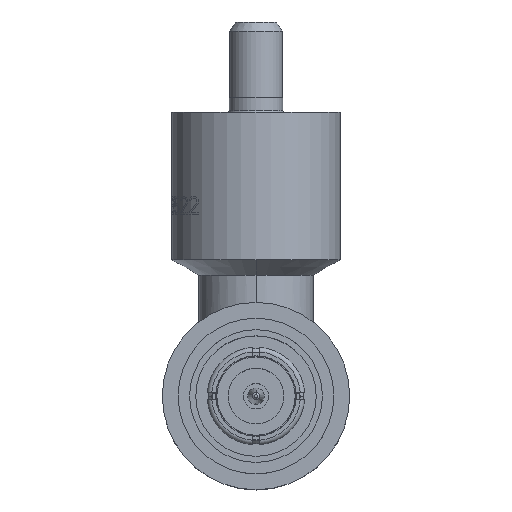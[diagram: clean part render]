
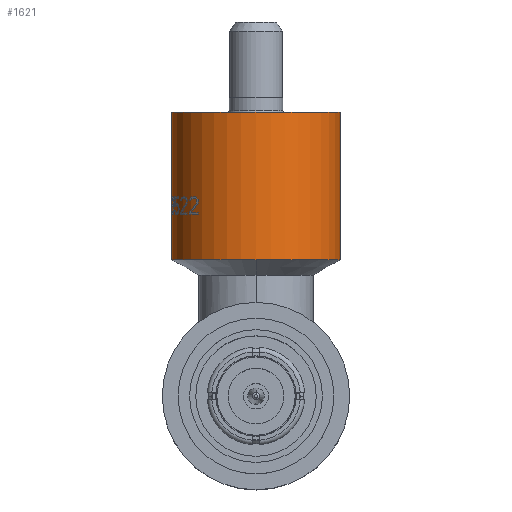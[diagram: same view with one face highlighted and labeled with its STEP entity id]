
A CAD part, top view. The second image highlights one B-rep face of the part: STEP entity #1621.
In plain terms, the highlighted cylindrical face has radius 7.112 mm (diameter 14.224 mm), a partial arc.
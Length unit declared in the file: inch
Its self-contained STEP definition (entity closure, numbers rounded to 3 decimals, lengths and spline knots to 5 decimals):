
#6=CARTESIAN_POINT('',(0.,1.134,0.));
#7=DIRECTION('',(0.,1.,0.));
#8=DIRECTION('',(-1.,0.,0.));
#9=AXIS2_PLACEMENT_3D('',#6,#7,#8);
#31=CARTESIAN_POINT('',(0.,0.64496,0.));
#32=DIRECTION('',(0.,1.,0.));
#33=DIRECTION('',(0.,0.,1.));
#34=AXIS2_PLACEMENT_3D('',#31,#32,#33);
#41=CARTESIAN_POINT('',(0.,0.64496,0.));
#42=DIRECTION('',(0.,1.,0.));
#43=DIRECTION('',(-1.,0.,0.));
#44=AXIS2_PLACEMENT_3D('',#41,#42,#43);
#59=DIRECTION('',(0.,1.,0.));
#60=VECTOR('',#59,0.48904);
#61=CARTESIAN_POINT('',(-0.28,0.64496,0.));
#62=LINE('',#61,#60);
#63=DIRECTION('',(0.,-1.,0.));
#64=VECTOR('',#63,0.48904);
#65=CARTESIAN_POINT('',(0.28,1.134,0.));
#66=LINE('',#65,#64);
#1295=CARTESIAN_POINT('',(0.28,1.134,0.));
#1296=CARTESIAN_POINT('',(-0.28,1.134,0.));
#1297=VERTEX_POINT('',#1295);
#1298=VERTEX_POINT('',#1296);
#1299=CARTESIAN_POINT('',(0.28,0.64496,0.));
#1301=VERTEX_POINT('',#1299);
#1303=CARTESIAN_POINT('',(-0.28,0.64496,0.));
#1304=VERTEX_POINT('',#1303);
#1309=CARTESIAN_POINT('',(0.,0.64496,0.28));
#1310=VERTEX_POINT('',#1309);
#1609=CARTESIAN_POINT('',(0.,0.63518,0.));
#1610=DIRECTION('',(0.,1.,0.));
#1611=DIRECTION('',(1.,0.,0.));
#1612=AXIS2_PLACEMENT_3D('',#1609,#1610,#1611);
#1613=CYLINDRICAL_SURFACE('',#1612,0.28);
#1614=ORIENTED_EDGE('',*,*,#1589,.F.);
#1615=ORIENTED_EDGE('',*,*,#1600,.F.);
#1616=ORIENTED_EDGE('',*,*,#1570,.T.);
#1617=ORIENTED_EDGE('',*,*,#1549,.T.);
#1618=ORIENTED_EDGE('',*,*,#1567,.T.);
#1619=EDGE_LOOP('',(#1614,#1615,#1616,#1617,#1618));
#1620=FACE_OUTER_BOUND('',#1619,.F.);
#1621=ADVANCED_FACE('',(#1620),#1613,.T.);
#10=CIRCLE('',#9,0.28);
#35=CIRCLE('',#34,0.28);
#45=CIRCLE('',#44,0.28);
#1549=EDGE_CURVE('',#1298,#1297,#10,.T.);
#1567=EDGE_CURVE('',#1297,#1301,#66,.T.);
#1570=EDGE_CURVE('',#1304,#1298,#62,.T.);
#1589=EDGE_CURVE('',#1310,#1301,#35,.T.);
#1600=EDGE_CURVE('',#1304,#1310,#45,.T.);
